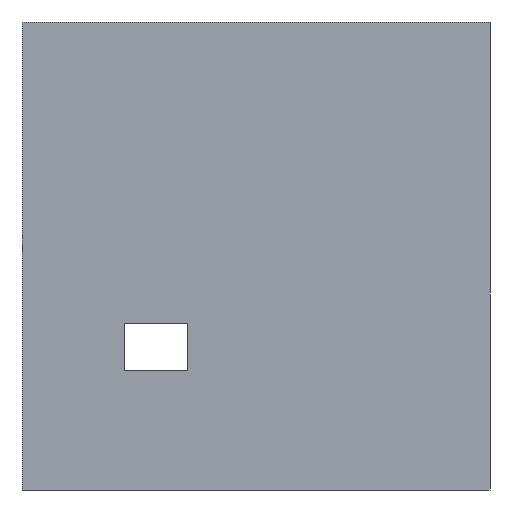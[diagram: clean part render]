
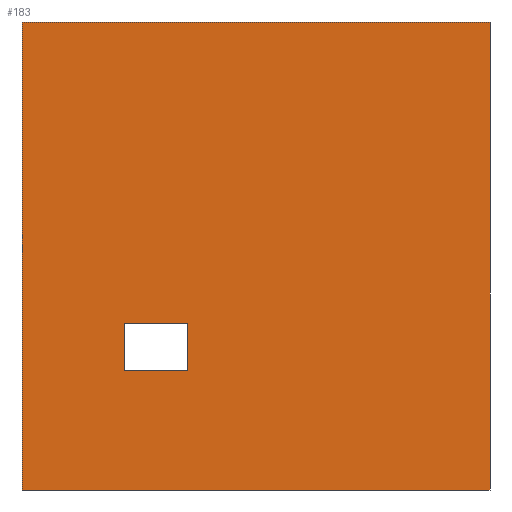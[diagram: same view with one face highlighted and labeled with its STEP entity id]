
A CAD part, front view. The second image highlights one B-rep face of the part: STEP entity #183.
In plain terms, the highlighted planar face has unit normal (0, -1, 0).
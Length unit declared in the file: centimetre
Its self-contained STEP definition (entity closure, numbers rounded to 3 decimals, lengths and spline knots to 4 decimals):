
#3 = VERTEX_POINT ( 'NONE', #90 ) ;
#16 = EDGE_CURVE ( 'NONE', #361, #226, #140, .T. ) ;
#31 = VECTOR ( 'NONE', #255, 100. ) ;
#34 = LINE ( 'NONE', #394, #136 ) ;
#44 = DIRECTION ( 'NONE',  ( 0., 1., 0. ) ) ;
#61 = EDGE_CURVE ( 'NONE', #3, #115, #277, .T. ) ;
#65 = ORIENTED_EDGE ( 'NONE', *, *, #502, .F. ) ;
#72 = VECTOR ( 'NONE', #514, 100. ) ;
#85 = CARTESIAN_POINT ( 'NONE',  ( 0., 0., 0. ) ) ;
#90 = CARTESIAN_POINT ( 'NONE',  ( 353.8112, 0., 356.4991 ) ) ;
#102 = CARTESIAN_POINT ( 'NONE',  ( 220.0489, 0., 255.2701 ) ) ;
#107 = VERTEX_POINT ( 'NONE', #113 ) ;
#109 = PLANE ( 'NONE',  #163 ) ;
#110 = CARTESIAN_POINT ( 'NONE',  ( 220.0489, 0., 255.2701 ) ) ;
#113 = CARTESIAN_POINT ( 'NONE',  ( 1000., 0., 0. ) ) ;
#115 = VERTEX_POINT ( 'NONE', #624 ) ;
#126 = VECTOR ( 'NONE', #388, 100. ) ;
#131 = VERTEX_POINT ( 'NONE', #274 ) ;
#136 = VECTOR ( 'NONE', #645, 100. ) ;
#140 = LINE ( 'NONE', #550, #31 ) ;
#151 = VECTOR ( 'NONE', #248, 100. ) ;
#158 = FACE_OUTER_BOUND ( 'NONE', #584, .T. ) ;
#163 = AXIS2_PLACEMENT_3D ( 'NONE', #364, #44, #304 ) ;
#174 = CARTESIAN_POINT ( 'NONE',  ( 220.0489, 0., 255.2701 ) ) ;
#183 = ADVANCED_FACE ( 'NONE', ( #216, #158 ), #109, .F. ) ;
#186 = ORIENTED_EDGE ( 'NONE', *, *, #61, .F. ) ;
#189 = CARTESIAN_POINT ( 'NONE',  ( 0., 0., 1000. ) ) ;
#205 = ORIENTED_EDGE ( 'NONE', *, *, #302, .F. ) ;
#216 = FACE_BOUND ( 'NONE', #397, .T. ) ;
#219 = CARTESIAN_POINT ( 'NONE',  ( 1000., 0., 1000. ) ) ;
#226 = VERTEX_POINT ( 'NONE', #359 ) ;
#241 = CARTESIAN_POINT ( 'NONE',  ( 353.8112, 0., 255.2701 ) ) ;
#243 = LINE ( 'NONE', #85, #151 ) ;
#248 = DIRECTION ( 'NONE',  ( 1., 0., 0. ) ) ;
#249 = DIRECTION ( 'NONE',  ( 0., 0., -1. ) ) ;
#255 = DIRECTION ( 'NONE',  ( 0., 0., -1. ) ) ;
#274 = CARTESIAN_POINT ( 'NONE',  ( 1000., 0., 1000. ) ) ;
#277 = LINE ( 'NONE', #519, #657 ) ;
#285 = ORIENTED_EDGE ( 'NONE', *, *, #544, .F. ) ;
#299 = EDGE_CURVE ( 'NONE', #226, #107, #243, .T. ) ;
#302 = EDGE_CURVE ( 'NONE', #361, #131, #34, .T. ) ;
#304 = DIRECTION ( 'NONE',  ( 0., 0., 1. ) ) ;
#308 = CARTESIAN_POINT ( 'NONE',  ( 353.8112, 0., 255.2701 ) ) ;
#314 = DIRECTION ( 'NONE',  ( -1., 0., 0. ) ) ;
#317 = LINE ( 'NONE', #219, #601 ) ;
#326 = ORIENTED_EDGE ( 'NONE', *, *, #299, .T. ) ;
#359 = CARTESIAN_POINT ( 'NONE',  ( 0., 0., 0. ) ) ;
#361 = VERTEX_POINT ( 'NONE', #189 ) ;
#364 = CARTESIAN_POINT ( 'NONE',  ( 0., 0., 1000. ) ) ;
#388 = DIRECTION ( 'NONE',  ( 0., 0., -1. ) ) ;
#394 = CARTESIAN_POINT ( 'NONE',  ( 0., 0., 1000. ) ) ;
#397 = EDGE_LOOP ( 'NONE', ( #440, #65, #186, #285 ) ) ;
#432 = DIRECTION ( 'NONE',  ( 0., 0., 1. ) ) ;
#440 = ORIENTED_EDGE ( 'NONE', *, *, #635, .F. ) ;
#478 = LINE ( 'NONE', #110, #72 ) ;
#485 = ORIENTED_EDGE ( 'NONE', *, *, #16, .T. ) ;
#502 = EDGE_CURVE ( 'NONE', #115, #614, #636, .T. ) ;
#514 = DIRECTION ( 'NONE',  ( 1., 0., 0. ) ) ;
#519 = CARTESIAN_POINT ( 'NONE',  ( 220.0489, 0., 356.4991 ) ) ;
#522 = ORIENTED_EDGE ( 'NONE', *, *, #529, .F. ) ;
#529 = EDGE_CURVE ( 'NONE', #131, #107, #317, .T. ) ;
#544 = EDGE_CURVE ( 'NONE', #619, #3, #587, .T. ) ;
#550 = CARTESIAN_POINT ( 'NONE',  ( 0., 0., 1000. ) ) ;
#584 = EDGE_LOOP ( 'NONE', ( #326, #522, #205, #485 ) ) ;
#587 = LINE ( 'NONE', #241, #610 ) ;
#601 = VECTOR ( 'NONE', #249, 100. ) ;
#610 = VECTOR ( 'NONE', #432, 100. ) ;
#614 = VERTEX_POINT ( 'NONE', #102 ) ;
#619 = VERTEX_POINT ( 'NONE', #308 ) ;
#624 = CARTESIAN_POINT ( 'NONE',  ( 220.0489, 0., 356.4991 ) ) ;
#635 = EDGE_CURVE ( 'NONE', #614, #619, #478, .T. ) ;
#636 = LINE ( 'NONE', #174, #126 ) ;
#645 = DIRECTION ( 'NONE',  ( 1., 0., 0. ) ) ;
#657 = VECTOR ( 'NONE', #314, 100. ) ;
